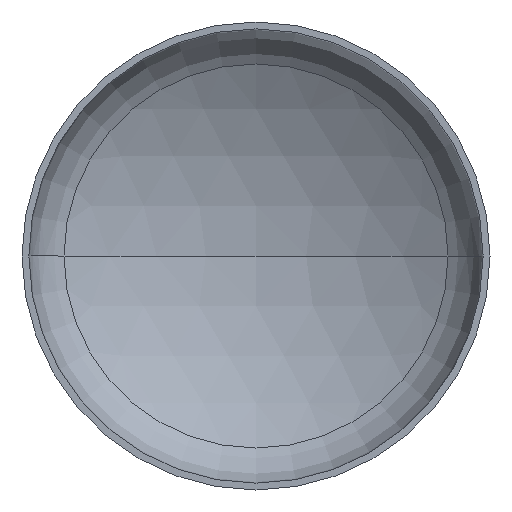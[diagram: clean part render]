
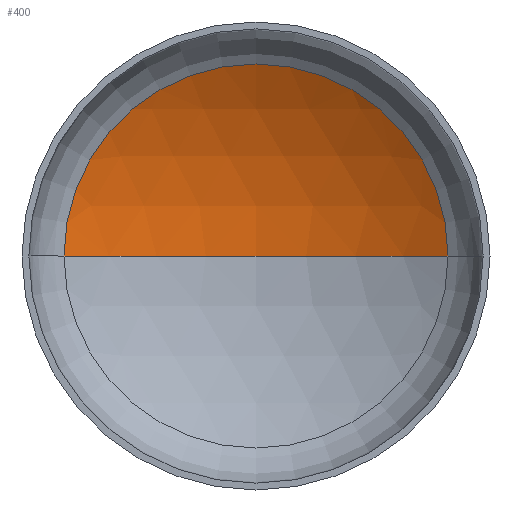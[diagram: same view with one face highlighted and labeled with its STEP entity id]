
A CAD part, front view. The second image highlights one B-rep face of the part: STEP entity #400.
In plain terms, the highlighted spherical face has radius 3040 mm.
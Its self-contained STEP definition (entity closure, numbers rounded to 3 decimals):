
#5 = VERTEX_POINT ( 'NONE', #249 ) ;
#12 = AXIS2_PLACEMENT_3D ( 'NONE', #73, #120, #135 ) ;
#16 = AXIS2_PLACEMENT_3D ( 'NONE', #403, #325, #231 ) ;
#29 = EDGE_LOOP ( 'NONE', ( #70, #335, #159 ) ) ;
#38 = VERTEX_POINT ( 'NONE', #248 ) ;
#51 = AXIS2_PLACEMENT_3D ( 'NONE', #211, #192, #193 ) ;
#67 = VERTEX_POINT ( 'NONE', #246 ) ;
#70 = ORIENTED_EDGE ( 'NONE', *, *, #354, .F. ) ;
#73 = CARTESIAN_POINT ( 'NONE',  ( 0., -1987.592, 0. ) ) ;
#115 = EDGE_CURVE ( 'NONE', #38, #67, #245, .T. ) ;
#120 = DIRECTION ( 'NONE',  ( 0., 0., 1. ) ) ;
#135 = DIRECTION ( 'NONE',  ( 1., 0., 0. ) ) ;
#146 = DIRECTION ( 'NONE',  ( -1., 0., 0. ) ) ;
#148 = CARTESIAN_POINT ( 'NONE',  ( 0., -1987.592, 0. ) ) ;
#159 = ORIENTED_EDGE ( 'NONE', *, *, #115, .T. ) ;
#192 = DIRECTION ( 'NONE',  ( 0., -1., 0. ) ) ;
#193 = DIRECTION ( 'NONE',  ( 1., 0., 0. ) ) ;
#211 = CARTESIAN_POINT ( 'NONE',  ( 0., 622.216, 0. ) ) ;
#231 = DIRECTION ( 'NONE',  ( -1., 0., 0. ) ) ;
#245 = CIRCLE ( 'NONE', #51, 1559.006 ) ;
#246 = CARTESIAN_POINT ( 'NONE',  ( -1559.006, 622.216, 0. ) ) ;
#247 = SPHERICAL_SURFACE ( 'NONE', #391, 3040. ) ;
#248 = CARTESIAN_POINT ( 'NONE',  ( 1559.006, 622.216, 0. ) ) ;
#249 = CARTESIAN_POINT ( 'NONE',  ( 0., 1052.408, 0. ) ) ;
#299 = DIRECTION ( 'NONE',  ( 0., 0., -1. ) ) ;
#318 = CIRCLE ( 'NONE', #12, 3040. ) ;
#325 = DIRECTION ( 'NONE',  ( 0., 0., -1. ) ) ;
#335 = ORIENTED_EDGE ( 'NONE', *, *, #353, .T. ) ;
#353 = EDGE_CURVE ( 'NONE', #5, #38, #379, .T. ) ;
#354 = EDGE_CURVE ( 'NONE', #5, #67, #318, .T. ) ;
#357 = FACE_OUTER_BOUND ( 'NONE', #29, .T. ) ;
#379 = CIRCLE ( 'NONE', #16, 3040. ) ;
#391 = AXIS2_PLACEMENT_3D ( 'NONE', #148, #299, #146 ) ;
#400 = ADVANCED_FACE ( 'NONE', ( #357 ), #247, .F. ) ;
#403 = CARTESIAN_POINT ( 'NONE',  ( 0., -1987.592, 0. ) ) ;
